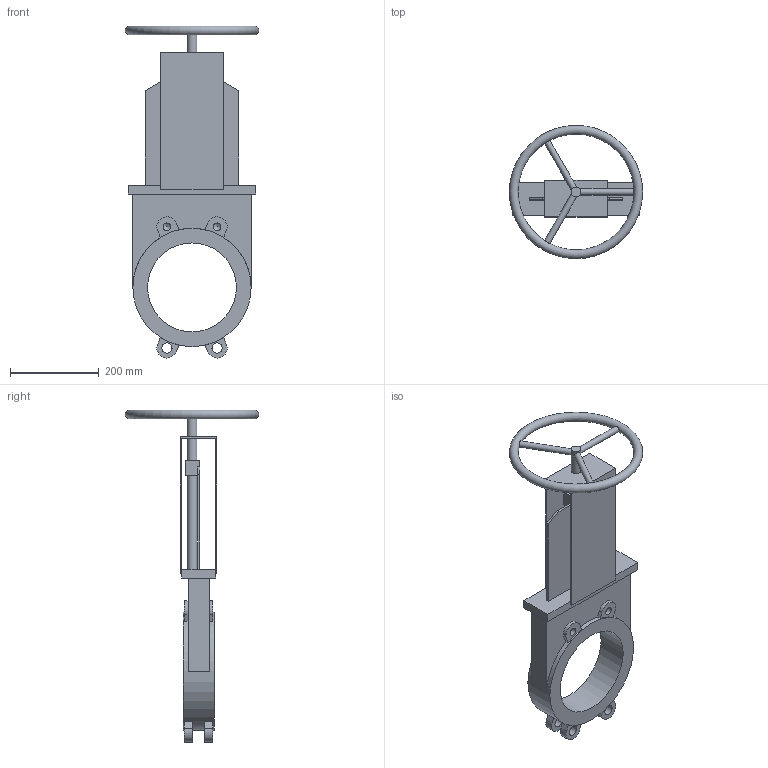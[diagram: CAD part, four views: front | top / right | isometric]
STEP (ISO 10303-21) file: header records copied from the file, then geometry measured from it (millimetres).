
FILE_DESCRIPTION(('STEP AP203'), '1');
FILE_NAME('Çàäâèæêà øèáåðíàÿ ìåæôëàíöåâàÿ K21GV DN200', '', ('UNSPECIFIED'), ('UNSPECIFIED'), 'ASCON STEP Converter 1.6', 'ASCON Math Kernel', '');
FILE_SCHEMA(('CONFIG_CONTROL_DESIGN'));
Length unit declared in the file: millimetre
Bounding box: 299.95 x 299.92 x 746.75 mm (x, y, z)
Volume: 4613906.6 mm3; surface area: 664278 mm2
Topology: 1 solids, 1 shells, 99 faces, 276 edges, 180 vertices
Faces by surface type: plane 70, cylinder 24, cone 4, torus 1
Full cylindrical faces by diameter (mm): 14 x3, 17.294 x4, 22 x3, 23 x4, 200 x1, 266 x1
Entity records: 4795 total; most frequent: CARTESIAN_POINT 1488, ORIENTED_EDGE 496, DIRECTION 490, EDGE_CURVE 248, VERTEX_POINT 178, AXIS2_PLACEMENT_3D 168, LINE 154, VECTOR 154
